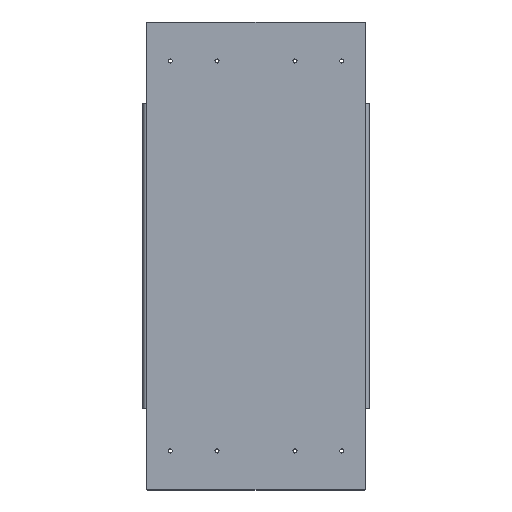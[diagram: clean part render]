
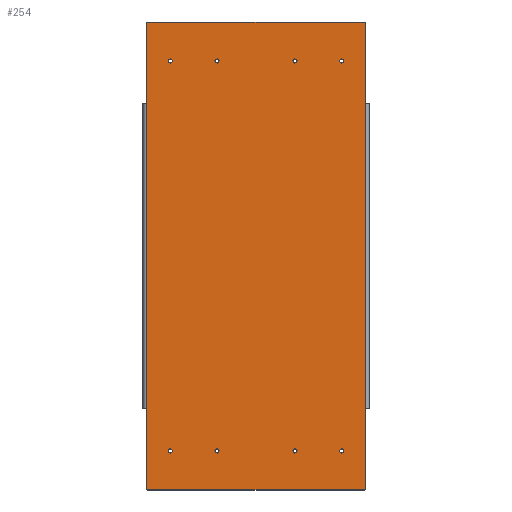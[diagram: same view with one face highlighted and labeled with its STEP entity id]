
A CAD part, top view. The second image highlights one B-rep face of the part: STEP entity #254.
In plain terms, the highlighted planar face has unit normal (0, 0, 1).
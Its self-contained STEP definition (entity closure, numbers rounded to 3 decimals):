
#59=CARTESIAN_POINT('',(1580.,4693.5,287.5));
#60=DIRECTION('',(-0.,-0.,1.));
#61=DIRECTION('',(0.,1.,0.));
#62=AXIS2_PLACEMENT_3D('',#59,#60,#61);
#63=PLANE('',#62);
#64=CARTESIAN_POINT('',(1370.,4730.9,287.5));
#65=VERTEX_POINT('',#64);
#66=CARTESIAN_POINT('',(1370.,4733.5,287.5));
#67=DIRECTION('',(-0.,-0.,1.));
#68=DIRECTION('',(0.,-1.,-0.));
#69=AXIS2_PLACEMENT_3D('',#66,#67,#68);
#70=CIRCLE('',#69,2.6);
#71=EDGE_CURVE('',#65,#65,#70,.T.);
#72=ORIENTED_EDGE('',*,*,#71,.F.);
#73=EDGE_LOOP('',(#72));
#74=FACE_BOUND('',#73,.T.);
#75=CARTESIAN_POINT('',(1430.,4730.9,287.5));
#76=VERTEX_POINT('',#75);
#77=CARTESIAN_POINT('',(1430.,4733.5,287.5));
#78=DIRECTION('',(-0.,-0.,1.));
#79=DIRECTION('',(0.,-1.,-0.));
#80=AXIS2_PLACEMENT_3D('',#77,#78,#79);
#81=CIRCLE('',#80,2.6);
#82=EDGE_CURVE('',#76,#76,#81,.T.);
#83=ORIENTED_EDGE('',*,*,#82,.F.);
#84=EDGE_LOOP('',(#83));
#85=FACE_BOUND('',#84,.T.);
#86=CARTESIAN_POINT('',(1530.,4730.9,287.5));
#87=VERTEX_POINT('',#86);
#88=CARTESIAN_POINT('',(1530.,4733.5,287.5));
#89=DIRECTION('',(-0.,-0.,1.));
#90=DIRECTION('',(0.,-1.,-0.));
#91=AXIS2_PLACEMENT_3D('',#88,#89,#90);
#92=CIRCLE('',#91,2.6);
#93=EDGE_CURVE('',#87,#87,#92,.T.);
#94=ORIENTED_EDGE('',*,*,#93,.F.);
#95=EDGE_LOOP('',(#94));
#96=FACE_BOUND('',#95,.T.);
#97=CARTESIAN_POINT('',(1590.,4730.9,287.5));
#98=VERTEX_POINT('',#97);
#99=CARTESIAN_POINT('',(1590.,4733.5,287.5));
#100=DIRECTION('',(-0.,-0.,1.));
#101=DIRECTION('',(0.,-1.,-0.));
#102=AXIS2_PLACEMENT_3D('',#99,#100,#101);
#103=CIRCLE('',#102,2.6);
#104=EDGE_CURVE('',#98,#98,#103,.T.);
#105=ORIENTED_EDGE('',*,*,#104,.F.);
#106=EDGE_LOOP('',(#105));
#107=FACE_BOUND('',#106,.T.);
#108=CARTESIAN_POINT('',(1530.,5230.9,287.5));
#109=VERTEX_POINT('',#108);
#110=CARTESIAN_POINT('',(1530.,5233.5,287.5));
#111=DIRECTION('',(-0.,-0.,1.));
#112=DIRECTION('',(0.,-1.,-0.));
#113=AXIS2_PLACEMENT_3D('',#110,#111,#112);
#114=CIRCLE('',#113,2.6);
#115=EDGE_CURVE('',#109,#109,#114,.T.);
#116=ORIENTED_EDGE('',*,*,#115,.F.);
#117=EDGE_LOOP('',(#116));
#118=FACE_BOUND('',#117,.T.);
#119=CARTESIAN_POINT('',(1370.,5230.9,287.5));
#120=VERTEX_POINT('',#119);
#121=CARTESIAN_POINT('',(1370.,5233.5,287.5));
#122=DIRECTION('',(-0.,-0.,1.));
#123=DIRECTION('',(0.,-1.,-0.));
#124=AXIS2_PLACEMENT_3D('',#121,#122,#123);
#125=CIRCLE('',#124,2.6);
#126=EDGE_CURVE('',#120,#120,#125,.T.);
#127=ORIENTED_EDGE('',*,*,#126,.F.);
#128=EDGE_LOOP('',(#127));
#129=FACE_BOUND('',#128,.T.);
#130=CARTESIAN_POINT('',(1430.,5230.9,287.5));
#131=VERTEX_POINT('',#130);
#132=CARTESIAN_POINT('',(1430.,5233.5,287.5));
#133=DIRECTION('',(-0.,-0.,1.));
#134=DIRECTION('',(0.,-1.,-0.));
#135=AXIS2_PLACEMENT_3D('',#132,#133,#134);
#136=CIRCLE('',#135,2.6);
#137=EDGE_CURVE('',#131,#131,#136,.T.);
#138=ORIENTED_EDGE('',*,*,#137,.F.);
#139=EDGE_LOOP('',(#138));
#140=FACE_BOUND('',#139,.T.);
#141=CARTESIAN_POINT('',(1590.,5230.9,287.5));
#142=VERTEX_POINT('',#141);
#143=CARTESIAN_POINT('',(1590.,5233.5,287.5));
#144=DIRECTION('',(-0.,-0.,1.));
#145=DIRECTION('',(0.,-1.,-0.));
#146=AXIS2_PLACEMENT_3D('',#143,#144,#145);
#147=CIRCLE('',#146,2.6);
#148=EDGE_CURVE('',#142,#142,#147,.T.);
#149=ORIENTED_EDGE('',*,*,#148,.F.);
#150=EDGE_LOOP('',(#149));
#151=FACE_BOUND('',#150,.T.);
#152=CARTESIAN_POINT('',(1620.,4787.5,287.5));
#153=VERTEX_POINT('',#152);
#154=CARTESIAN_POINT('',(1620.,4684.5,287.5));
#155=VERTEX_POINT('',#154);
#156=CARTESIAN_POINT('',(1620.,4787.5,287.5));
#157=DIRECTION('',(0.,-1.,-0.));
#158=VECTOR('',#157,103.);
#159=LINE('',#156,#158);
#160=EDGE_CURVE('',#153,#155,#159,.T.);
#161=ORIENTED_EDGE('',*,*,#160,.F.);
#162=CARTESIAN_POINT('',(1620.,5179.5,287.5));
#163=VERTEX_POINT('',#162);
#164=CARTESIAN_POINT('',(1620.,4787.5,287.5));
#165=DIRECTION('',(0.,1.,0.));
#166=VECTOR('',#165,392.);
#167=LINE('',#164,#166);
#168=EDGE_CURVE('',#153,#163,#167,.T.);
#169=ORIENTED_EDGE('',*,*,#168,.T.);
#170=CARTESIAN_POINT('',(1620.,5282.5,287.5));
#171=VERTEX_POINT('',#170);
#172=CARTESIAN_POINT('',(1620.,5179.5,287.5));
#173=DIRECTION('',(0.,1.,0.));
#174=VECTOR('',#173,103.);
#175=LINE('',#172,#174);
#176=EDGE_CURVE('',#163,#171,#175,.T.);
#177=ORIENTED_EDGE('',*,*,#176,.T.);
#178=CARTESIAN_POINT('',(1619.,5283.5,287.5));
#179=VERTEX_POINT('',#178);
#180=CARTESIAN_POINT('',(1619.,5282.5,287.5));
#181=DIRECTION('',(-0.,-0.,1.));
#182=DIRECTION('',(0.,-1.,-0.));
#183=AXIS2_PLACEMENT_3D('',#180,#181,#182);
#184=CIRCLE('',#183,1.);
#185=EDGE_CURVE('',#171,#179,#184,.T.);
#186=ORIENTED_EDGE('',*,*,#185,.T.);
#187=CARTESIAN_POINT('',(1341.,5283.5,287.5));
#188=VERTEX_POINT('',#187);
#189=CARTESIAN_POINT('',(1619.,5283.5,287.5));
#190=DIRECTION('',(-1.,0.,0.));
#191=VECTOR('',#190,278.);
#192=LINE('',#189,#191);
#193=EDGE_CURVE('',#179,#188,#192,.T.);
#194=ORIENTED_EDGE('',*,*,#193,.T.);
#195=CARTESIAN_POINT('',(1340.,5282.5,287.5));
#196=VERTEX_POINT('',#195);
#197=CARTESIAN_POINT('',(1341.,5282.5,287.5));
#198=DIRECTION('',(-0.,-0.,1.));
#199=DIRECTION('',(0.,-1.,-0.));
#200=AXIS2_PLACEMENT_3D('',#197,#198,#199);
#201=CIRCLE('',#200,1.);
#202=EDGE_CURVE('',#188,#196,#201,.T.);
#203=ORIENTED_EDGE('',*,*,#202,.T.);
#204=CARTESIAN_POINT('',(1340.,5179.5,287.5));
#205=VERTEX_POINT('',#204);
#206=CARTESIAN_POINT('',(1340.,5179.5,287.5));
#207=DIRECTION('',(0.,1.,0.));
#208=VECTOR('',#207,103.);
#209=LINE('',#206,#208);
#210=EDGE_CURVE('',#205,#196,#209,.T.);
#211=ORIENTED_EDGE('',*,*,#210,.F.);
#212=CARTESIAN_POINT('',(1340.,4787.5,287.5));
#213=VERTEX_POINT('',#212);
#214=CARTESIAN_POINT('',(1340.,5179.5,287.5));
#215=DIRECTION('',(-0.,-1.,-0.));
#216=VECTOR('',#215,392.);
#217=LINE('',#214,#216);
#218=EDGE_CURVE('',#205,#213,#217,.T.);
#219=ORIENTED_EDGE('',*,*,#218,.T.);
#220=CARTESIAN_POINT('',(1340.,4684.5,287.5));
#221=VERTEX_POINT('',#220);
#222=CARTESIAN_POINT('',(1340.,4787.5,287.5));
#223=DIRECTION('',(0.,-1.,-0.));
#224=VECTOR('',#223,103.);
#225=LINE('',#222,#224);
#226=EDGE_CURVE('',#213,#221,#225,.T.);
#227=ORIENTED_EDGE('',*,*,#226,.T.);
#228=CARTESIAN_POINT('',(1341.,4683.5,287.5));
#229=VERTEX_POINT('',#228);
#230=CARTESIAN_POINT('',(1341.,4684.5,287.5));
#231=DIRECTION('',(-0.,-0.,1.));
#232=DIRECTION('',(0.,-1.,-0.));
#233=AXIS2_PLACEMENT_3D('',#230,#231,#232);
#234=CIRCLE('',#233,1.);
#235=EDGE_CURVE('',#221,#229,#234,.T.);
#236=ORIENTED_EDGE('',*,*,#235,.T.);
#237=CARTESIAN_POINT('',(1619.,4683.5,287.5));
#238=VERTEX_POINT('',#237);
#239=CARTESIAN_POINT('',(1619.,4683.5,287.5));
#240=DIRECTION('',(-1.,0.,0.));
#241=VECTOR('',#240,278.);
#242=LINE('',#239,#241);
#243=EDGE_CURVE('',#238,#229,#242,.T.);
#244=ORIENTED_EDGE('',*,*,#243,.F.);
#245=CARTESIAN_POINT('',(1619.,4684.5,287.5));
#246=DIRECTION('',(-0.,-0.,1.));
#247=DIRECTION('',(0.,-1.,-0.));
#248=AXIS2_PLACEMENT_3D('',#245,#246,#247);
#249=CIRCLE('',#248,1.);
#250=EDGE_CURVE('',#238,#155,#249,.T.);
#251=ORIENTED_EDGE('',*,*,#250,.T.);
#252=EDGE_LOOP('',(#161,#169,#177,#186,#194,#203,#211,#219,#227,#236,#244,#251));
#253=FACE_BOUND('',#252,.T.);
#254=ADVANCED_FACE('',(#74,#85,#96,#107,#118,#129,#140,#151,#253),#63,.T.);
